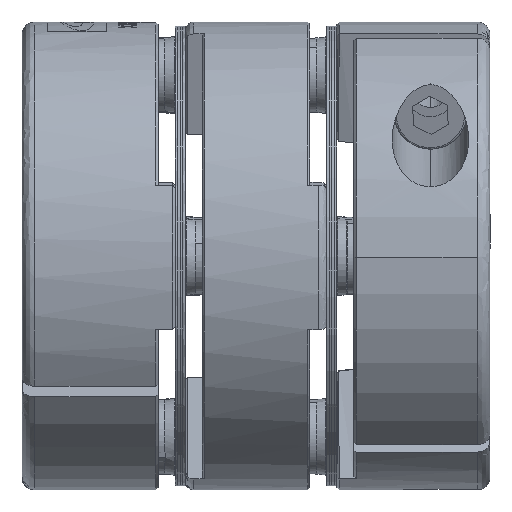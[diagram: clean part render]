
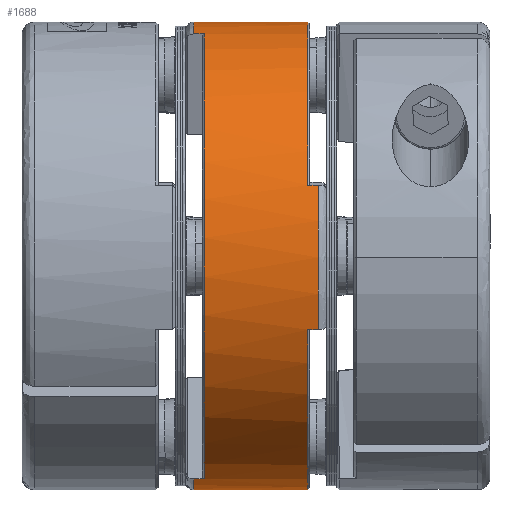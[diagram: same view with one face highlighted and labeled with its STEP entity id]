
A CAD part, left-side view. The second image highlights one B-rep face of the part: STEP entity #1688.
In plain terms, the highlighted cylindrical face has radius 27.5 mm (diameter 55 mm), a partial arc.
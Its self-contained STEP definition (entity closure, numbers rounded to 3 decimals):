
#1669 = VERTEX_POINT ( 'NONE', #9019 ) ;
#1670 = ORIENTED_EDGE ( 'NONE', *, *, #1671, .F. ) ;
#1671 = EDGE_CURVE ( 'NONE', #1672, #1669, #9018, .T. ) ;
#1672 = VERTEX_POINT ( 'NONE', #9014 ) ;
#1673 = ORIENTED_EDGE ( 'NONE', *, *, #1674, .T. ) ;
#1674 = EDGE_CURVE ( 'NONE', #1672, #1675, #9013, .T. ) ;
#1675 = VERTEX_POINT ( 'NONE', #9008 ) ;
#1676 = ORIENTED_EDGE ( 'NONE', *, *, #1677, .F. ) ;
#1677 = EDGE_CURVE ( 'NONE', #1678, #1675, #9007, .T. ) ;
#1678 = VERTEX_POINT ( 'NONE', #9003 ) ;
#1679 = ORIENTED_EDGE ( 'NONE', *, *, #1680, .F. ) ;
#1680 = EDGE_CURVE ( 'NONE', #1681, #1678, #9002, .T. ) ;
#1681 = VERTEX_POINT ( 'NONE', #8997 ) ;
#1682 = ORIENTED_EDGE ( 'NONE', *, *, #1741, .F. ) ;
#1683 = VERTEX_POINT ( 'NONE', #8996 ) ;
#1688 = ADVANCED_FACE ( 'NONE', ( #9050 ), #9048, .T. ) ;
#1689 = EDGE_LOOP ( 'NONE', ( #1690, #1694, #1697, #1670, #1673, #1676, #1679, #1682, #1742, #1745, #1748, #1751 ) ) ;
#1690 = ORIENTED_EDGE ( 'NONE', *, *, #1691, .T. ) ;
#1691 = EDGE_CURVE ( 'NONE', #1692, #1693, #9043, .T. ) ;
#1692 = VERTEX_POINT ( 'NONE', #9039 ) ;
#1693 = VERTEX_POINT ( 'NONE', #9038 ) ;
#1694 = ORIENTED_EDGE ( 'NONE', *, *, #1695, .T. ) ;
#1695 = EDGE_CURVE ( 'NONE', #1693, #1696, #9037, .T. ) ;
#1696 = VERTEX_POINT ( 'NONE', #9033 ) ;
#1697 = ORIENTED_EDGE ( 'NONE', *, *, #1698, .F. ) ;
#1698 = EDGE_CURVE ( 'NONE', #1669, #1696, #9031, .T. ) ;
#1741 = EDGE_CURVE ( 'NONE', #1683, #1681, #9267, .T. ) ;
#1742 = ORIENTED_EDGE ( 'NONE', *, *, #1743, .T. ) ;
#1743 = EDGE_CURVE ( 'NONE', #1683, #1744, #9263, .T. ) ;
#1744 = VERTEX_POINT ( 'NONE', #9258 ) ;
#1745 = ORIENTED_EDGE ( 'NONE', *, *, #1746, .F. ) ;
#1746 = EDGE_CURVE ( 'NONE', #1747, #1744, #9257, .T. ) ;
#1747 = VERTEX_POINT ( 'NONE', #9253 ) ;
#1748 = ORIENTED_EDGE ( 'NONE', *, *, #1749, .T. ) ;
#1749 = EDGE_CURVE ( 'NONE', #1747, #1750, #9252, .T. ) ;
#1750 = VERTEX_POINT ( 'NONE', #9247 ) ;
#1751 = ORIENTED_EDGE ( 'NONE', *, *, #1752, .F. ) ;
#1752 = EDGE_CURVE ( 'NONE', #1692, #1750, #9245, .T. ) ;
#8996 = CARTESIAN_POINT ( 'NONE',  ( -6.287, -9.013, 29.587 ) ) ;
#8997 = CARTESIAN_POINT ( 'NONE',  ( -6.287, -22.413, 29.587 ) ) ;
#8998 = DIRECTION ( 'NONE',  ( -0.006, 0., 1. ) ) ;
#8999 = DIRECTION ( 'NONE',  ( 0., -1., 0. ) ) ;
#9000 = CARTESIAN_POINT ( 'NONE',  ( -6.114, -22.413, 2.088 ) ) ;
#9001 = AXIS2_PLACEMENT_3D ( 'NONE', #9000, #8999, #8998 ) ;
#9002 = CIRCLE ( 'NONE', #9001, 27.5 ) ;
#9003 = CARTESIAN_POINT ( 'NONE',  ( -32.321, -22.413, 10.421 ) ) ;
#9004 = DIRECTION ( 'NONE',  ( 0., -1., 0. ) ) ;
#9005 = VECTOR ( 'NONE', #9004, 1000. ) ;
#9006 = CARTESIAN_POINT ( 'NONE',  ( -32.321, -22.613, 10.421 ) ) ;
#9007 = LINE ( 'NONE', #9006, #9005 ) ;
#9008 = CARTESIAN_POINT ( 'NONE',  ( -32.321, -23.613, 10.421 ) ) ;
#9009 = DIRECTION ( 'NONE',  ( 0., 0., -1. ) ) ;
#9010 = DIRECTION ( 'NONE',  ( 0., 1., 0. ) ) ;
#9011 = CARTESIAN_POINT ( 'NONE',  ( -6.114, -23.613, 2.088 ) ) ;
#9012 = AXIS2_PLACEMENT_3D ( 'NONE', #9011, #9010, #9009 ) ;
#9013 = CIRCLE ( 'NONE', #9012, 27.5 ) ;
#9014 = CARTESIAN_POINT ( 'NONE',  ( -32.214, -23.613, -6.574 ) ) ;
#9015 = DIRECTION ( 'NONE',  ( 0., 1., 0. ) ) ;
#9016 = VECTOR ( 'NONE', #9015, 1000. ) ;
#9017 = CARTESIAN_POINT ( 'NONE',  ( -32.214, -22.613, -6.574 ) ) ;
#9018 = LINE ( 'NONE', #9017, #9016 ) ;
#9019 = CARTESIAN_POINT ( 'NONE',  ( -32.214, -22.413, -6.574 ) ) ;
#9029 = CARTESIAN_POINT ( 'NONE',  ( -6.114, -22.413, 2.088 ) ) ;
#9030 = AXIS2_PLACEMENT_3D ( 'NONE', #9029, #9089, #9088 ) ;
#9031 = CIRCLE ( 'NONE', #9030, 27.5 ) ;
#9033 = CARTESIAN_POINT ( 'NONE',  ( -6.114, -22.413, -25.412 ) ) ;
#9034 = DIRECTION ( 'NONE',  ( 0., -1., 0. ) ) ;
#9035 = VECTOR ( 'NONE', #9034, 1000. ) ;
#9036 = CARTESIAN_POINT ( 'NONE',  ( -6.114, -8.013, -25.412 ) ) ;
#9037 = LINE ( 'NONE', #9036, #9035 ) ;
#9038 = CARTESIAN_POINT ( 'NONE',  ( -6.114, -9.013, -25.412 ) ) ;
#9039 = CARTESIAN_POINT ( 'NONE',  ( -14.448, -9.013, -24.119 ) ) ;
#9040 = DIRECTION ( 'NONE',  ( 0., 0., -1. ) ) ;
#9041 = DIRECTION ( 'NONE',  ( 0., -1., 0. ) ) ;
#9042 = AXIS2_PLACEMENT_3D ( 'NONE', #9049, #9041, #9040 ) ;
#9043 = CIRCLE ( 'NONE', #9042, 27.5 ) ;
#9044 = DIRECTION ( 'NONE',  ( 0., 0., -1. ) ) ;
#9045 = DIRECTION ( 'NONE',  ( 0., -1., 0. ) ) ;
#9046 = CARTESIAN_POINT ( 'NONE',  ( -6.114, -8.013, 2.088 ) ) ;
#9047 = AXIS2_PLACEMENT_3D ( 'NONE', #9046, #9045, #9044 ) ;
#9048 = CYLINDRICAL_SURFACE ( 'NONE', #9047, 27.5 ) ;
#9049 = CARTESIAN_POINT ( 'NONE',  ( -6.114, -9.013, 2.088 ) ) ;
#9050 = FACE_OUTER_BOUND ( 'NONE', #1689, .T. ) ;
#9088 = DIRECTION ( 'NONE',  ( -0.006, 0., 1. ) ) ;
#9089 = DIRECTION ( 'NONE',  ( 0., -1., 0. ) ) ;
#9242 = DIRECTION ( 'NONE',  ( 0., -1., 0. ) ) ;
#9243 = VECTOR ( 'NONE', #9242, 1000. ) ;
#9244 = CARTESIAN_POINT ( 'NONE',  ( -14.448, -10.013, -24.119 ) ) ;
#9245 = LINE ( 'NONE', #9244, #9243 ) ;
#9247 = CARTESIAN_POINT ( 'NONE',  ( -14.448, -10.213, -24.119 ) ) ;
#9248 = DIRECTION ( 'NONE',  ( 0., 0., -1. ) ) ;
#9249 = DIRECTION ( 'NONE',  ( 0., -1., 0. ) ) ;
#9250 = CARTESIAN_POINT ( 'NONE',  ( -6.114, -10.213, 2.088 ) ) ;
#9251 = AXIS2_PLACEMENT_3D ( 'NONE', #9250, #9249, #9248 ) ;
#9252 = CIRCLE ( 'NONE', #9251, 27.5 ) ;
#9253 = CARTESIAN_POINT ( 'NONE',  ( -14.776, -10.213, 28.188 ) ) ;
#9254 = DIRECTION ( 'NONE',  ( 0., 1., 0. ) ) ;
#9255 = VECTOR ( 'NONE', #9254, 1000. ) ;
#9256 = CARTESIAN_POINT ( 'NONE',  ( -14.776, -10.013, 28.188 ) ) ;
#9257 = LINE ( 'NONE', #9256, #9255 ) ;
#9258 = CARTESIAN_POINT ( 'NONE',  ( -14.776, -9.013, 28.188 ) ) ;
#9259 = DIRECTION ( 'NONE',  ( 0., 0., -1. ) ) ;
#9260 = DIRECTION ( 'NONE',  ( 0., -1., 0. ) ) ;
#9261 = CARTESIAN_POINT ( 'NONE',  ( -6.114, -9.013, 2.088 ) ) ;
#9262 = AXIS2_PLACEMENT_3D ( 'NONE', #9261, #9260, #9259 ) ;
#9263 = CIRCLE ( 'NONE', #9262, 27.5 ) ;
#9264 = DIRECTION ( 'NONE',  ( 0., -1., 0. ) ) ;
#9265 = VECTOR ( 'NONE', #9264, 1000. ) ;
#9266 = CARTESIAN_POINT ( 'NONE',  ( -6.287, -8.013, 29.587 ) ) ;
#9267 = LINE ( 'NONE', #9266, #9265 ) ;
